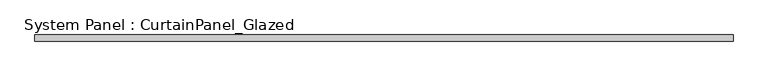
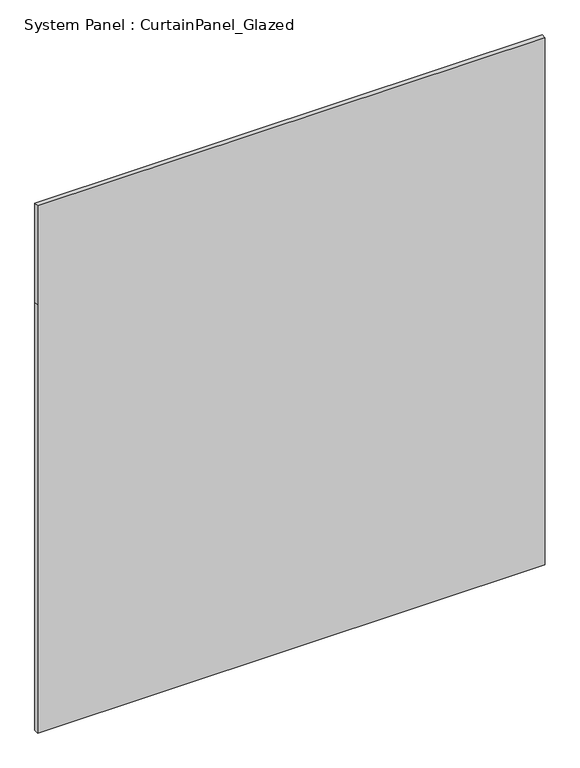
"""IFC4 building model written with IfcOpenShell, lengths in millimetres: plate geometry, System Panel : CurtainPanel_Glazed."""

from ifc_helpers import new_model, si_unit, frame, origin, place, context, project, spatial, polyline, outline, extrude, source, transform, mapped, element, save


def system_panel_curtainpanel_glazed_62d472f1(model_context):
    return source(origin(), model_context, "Body", "SweptSolid", [
        extrude(outline(polyline([(0.0, -1332.3000001), (0.0, 1332.3000001), (2375.0, 1332.3000001), (2925.0, 1332.3000001), (2925.0, -1332.3000001), (2375.0, -1332.3000001), (0.0, -1332.3000001)])), frame((0.0, -12.5, 0.0), z_axis=(0.0, 1.0, 0.0), x_axis=(0.0, 0.0, 1.0)), (0.0, 0.0, 1.0), 25.0),
    ])


if __name__ == "__main__":
    model = new_model("IFC4")
    model_context = context("Model", 3, world=origin())
    ifc_project = project(units=[si_unit("LENGTHUNIT", "METRE", prefix="MILLI")], contexts=[model_context])
    site = spatial("IfcSite", under=ifc_project)
    building = spatial("IfcBuilding", under=site)
    placement = place(None, origin())
    system_panel_curtainpanel_glazed_shape = system_panel_curtainpanel_glazed_62d472f1(model_context)
    element("IfcPlate", 1, ObjectType="System Panel : CurtainPanel_Glazed", at=placement, inside=building, context=model_context, shape_type="MappedRepresentation", body=[
        mapped(system_panel_curtainpanel_glazed_shape, transform((0.0, 0.0, 0.0), x_axis=(1.0, 0.0, 0.0), y_axis=(0.0, 1.0, 0.0), z_axis=(0.0, 0.0, 1.0))),
    ])
    save(model, "model.ifc")
